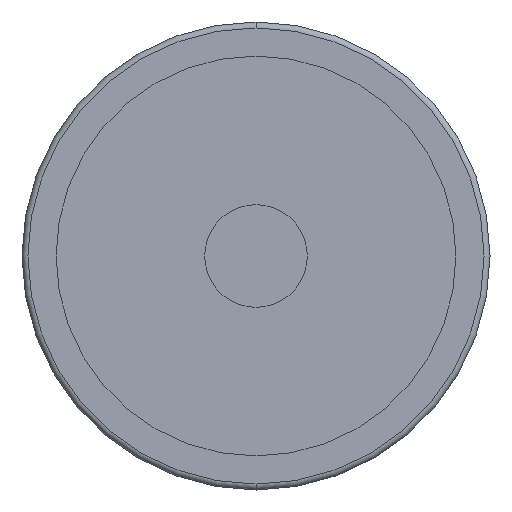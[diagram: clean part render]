
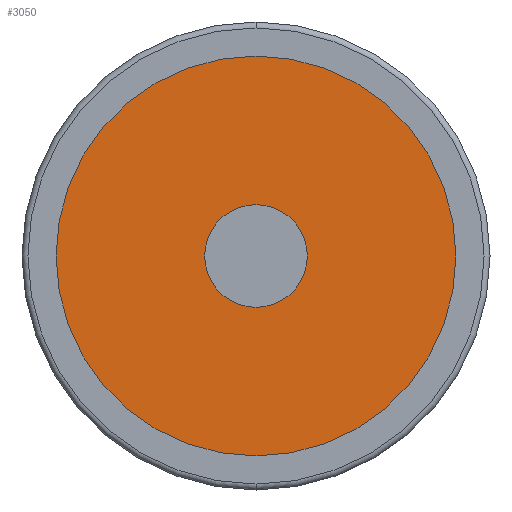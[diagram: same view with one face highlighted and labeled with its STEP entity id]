
A CAD part, front view. The second image highlights one B-rep face of the part: STEP entity #3050.
In plain terms, the highlighted planar face has unit normal (0, -1, 0).
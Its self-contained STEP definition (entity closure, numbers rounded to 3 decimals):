
#2 = ORIENTED_EDGE ( 'NONE', *, *, #1611, .F. ) ;
#18 = DIRECTION ( 'NONE',  ( 0., -1., 0. ) ) ;
#32 = AXIS2_PLACEMENT_3D ( 'NONE', #768, #2780, #2765 ) ;
#59 = CARTESIAN_POINT ( 'NONE',  ( 0., 4.5, 0. ) ) ;
#89 = DIRECTION ( 'NONE',  ( 1., 0., 0. ) ) ;
#92 = DIRECTION ( 'NONE',  ( 1., 0., 0. ) ) ;
#181 = CARTESIAN_POINT ( 'NONE',  ( 0., 4.5, 0. ) ) ;
#306 = PLANE ( 'NONE',  #2974 ) ;
#511 = AXIS2_PLACEMENT_3D ( 'NONE', #181, #1474, #2450 ) ;
#606 = AXIS2_PLACEMENT_3D ( 'NONE', #2441, #2456, #986 ) ;
#703 = CIRCLE ( 'NONE', #1503, 8. ) ;
#768 = CARTESIAN_POINT ( 'NONE',  ( 0., 4.5, 0. ) ) ;
#804 = CARTESIAN_POINT ( 'NONE',  ( -34.25, 4.5, 0. ) ) ;
#813 = CARTESIAN_POINT ( 'NONE',  ( 34.25, 4.5, 0. ) ) ;
#937 = CARTESIAN_POINT ( 'NONE',  ( -8., 4.5, 0. ) ) ;
#952 = EDGE_CURVE ( 'NONE', #1809, #1434, #2162, .T. ) ;
#970 = CIRCLE ( 'NONE', #32, 34.25 ) ;
#986 = DIRECTION ( 'NONE',  ( 1., 0., 0. ) ) ;
#1239 = ORIENTED_EDGE ( 'NONE', *, *, #1419, .F. ) ;
#1419 = EDGE_CURVE ( 'NONE', #1903, #3062, #703, .T. ) ;
#1422 = EDGE_CURVE ( 'NONE', #1434, #1809, #970, .T. ) ;
#1434 = VERTEX_POINT ( 'NONE', #2502 ) ;
#1474 = DIRECTION ( 'NONE',  ( 0., -1., 0. ) ) ;
#1503 = AXIS2_PLACEMENT_3D ( 'NONE', #59, #18, #89 ) ;
#1611 = EDGE_CURVE ( 'NONE', #3062, #1903, #2578, .T. ) ;
#1809 = VERTEX_POINT ( 'NONE', #813 ) ;
#1903 = VERTEX_POINT ( 'NONE', #937 ) ;
#2023 = FACE_OUTER_BOUND ( 'NONE', #2455, .T. ) ;
#2054 = EDGE_LOOP ( 'NONE', ( #2, #1239 ) ) ;
#2162 = CIRCLE ( 'NONE', #606, 34.25 ) ;
#2441 = CARTESIAN_POINT ( 'NONE',  ( 0., 4.5, 0. ) ) ;
#2450 = DIRECTION ( 'NONE',  ( 1., 0., 0. ) ) ;
#2455 = EDGE_LOOP ( 'NONE', ( #3113, #3008 ) ) ;
#2456 = DIRECTION ( 'NONE',  ( 0., -1., 0. ) ) ;
#2502 = CARTESIAN_POINT ( 'NONE',  ( -34.25, 4.5, 0. ) ) ;
#2578 = CIRCLE ( 'NONE', #511, 8. ) ;
#2765 = DIRECTION ( 'NONE',  ( 1., 0., 0. ) ) ;
#2767 = FACE_BOUND ( 'NONE', #2054, .T. ) ;
#2780 = DIRECTION ( 'NONE',  ( 0., -1., 0. ) ) ;
#2787 = DIRECTION ( 'NONE',  ( 0., -1., 0. ) ) ;
#2974 = AXIS2_PLACEMENT_3D ( 'NONE', #804, #2787, #92 ) ;
#3008 = ORIENTED_EDGE ( 'NONE', *, *, #952, .T. ) ;
#3009 = CARTESIAN_POINT ( 'NONE',  ( 8., 4.5, 0. ) ) ;
#3050 = ADVANCED_FACE ( 'NONE', ( #2023, #2767 ), #306, .T. ) ;
#3062 = VERTEX_POINT ( 'NONE', #3009 ) ;
#3113 = ORIENTED_EDGE ( 'NONE', *, *, #1422, .T. ) ;
